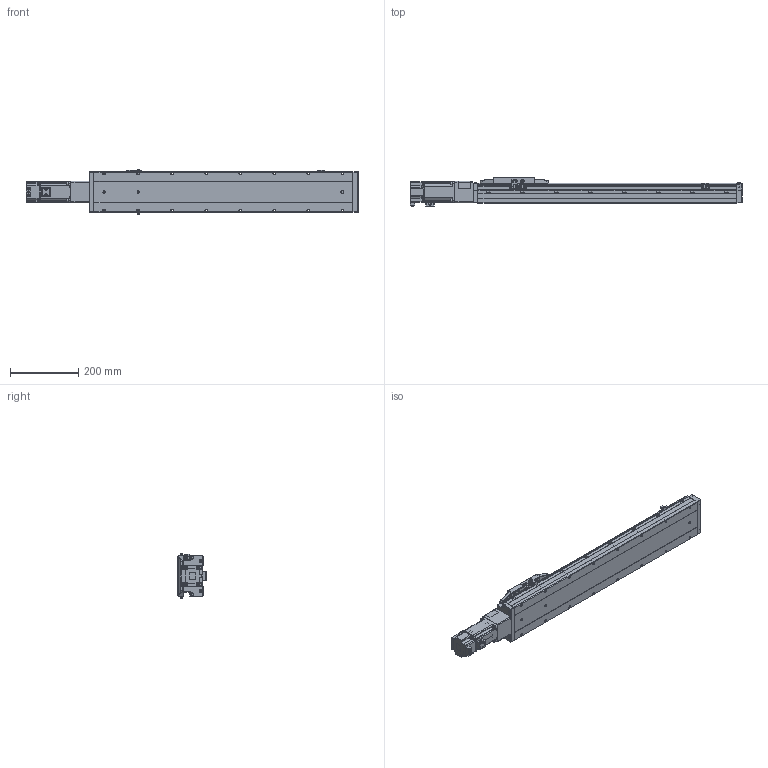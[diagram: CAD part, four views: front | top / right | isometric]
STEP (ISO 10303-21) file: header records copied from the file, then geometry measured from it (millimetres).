
FILE_DESCRIPTION (( 'STEP AP214' ), '1' );
FILE_NAME ('CTH12-L10-S550-BC-C40（简）.STEP', '2023-02-06T05:29:02', ( '' ), ( '' ), 'SwSTEP 2.0', 'SolidWorks 2018', '' );
FILE_SCHEMA (( 'AUTOMOTIVE_DESIGN' ));
Length unit declared in the file: millimetre
Products named in the file (23): CTH嫖萇羲壽假蚾啣; 嫖萇羲壽郪磁2; 湮賑怢  裔赽-1(CTH12)賑怢; CTH12_body_3; 嫖萇羲壽郪磁1333; 蚐郲; 内六角圆柱头螺钉M3-2; CTH12-BC-03_1; CTH12底座-L761简（550行程）; PM-Y45; hex nuts, style 1-grades ab gb_GB_FASTENER_NUT_SNAB1 M3-N; CTH12-BC-06-T40（cth8-bc-06-t40-G）_1; CTH12-L10-S550-BC-C40（简）; 内六角圆柱头螺钉M3-1; 400W萇儂; M5蹟隊; CTH12覜茼え; CTH12賑怢郪磁; CTH12萇儂釱; 内六角圆柱头螺钉M3; CTH12賑怢ㄗ潠ㄘ; CTH12-BL_body_4; CTH12
Assembly tree (43 placements, depth 4):
  CTH12-L10-S550-BC-C40（简）
    CTH12底座-L761简（550行程）
    蚐郲  x2
    CTH12-BL_body_4
    CTH12_body_3
    CTH12賑怢郪磁
      CTH12
        湮賑怢  裔赽-1(CTH12)賑怢
        CTH12賑怢ㄗ潠ㄘ
    CTH12覜茼え
    嫖萇羲壽郪磁2
      CTH嫖萇羲壽假蚾啣
      PM-Y45
      内六角圆柱头螺钉M3-1  x2
      内六角圆柱头螺钉M3-2  x2
      hex nuts, style 1-grades ab gb_GB_FASTENER_NUT_SNAB1 M3-N  x2
    CTH12萇儂釱
      CTH12-BC-03_1
      CTH12-BC-06-T40（cth8-bc-06-t40-G）_1
    嫖萇羲壽郪磁1333  x2
      CTH嫖萇羲壽假蚾啣
      PM-Y45
      内六角圆柱头螺钉M3-2
      内六角圆柱头螺钉M3-1
      hex nuts, style 1-grades ab gb_GB_FASTENER_NUT_SNAB1 M3-N
    内六角圆柱头螺钉M3  x6
    400W萇儂
    M5蹟隊  x4
Bounding box: 975.8 x 86.5 x 131.52 mm (x, y, z)
Volume: 5515435.6 mm3; surface area: 573936.1 mm2
Topology: 45 solids, 47 shells, 2876 faces, 7128 edges, 4477 vertices
Faces by surface type: plane 1424, cylinder 869, cone 323, bspline 132, torus 124, sphere 4
Entity records: 89008 total; most frequent: CARTESIAN_POINT 30446, ORIENTED_EDGE 11358, DIRECTION 11074, EDGE_CURVE 5679, AXIS2_PLACEMENT_3D 3885, VERTEX_POINT 3581, VECTOR 3304, LINE 3304
